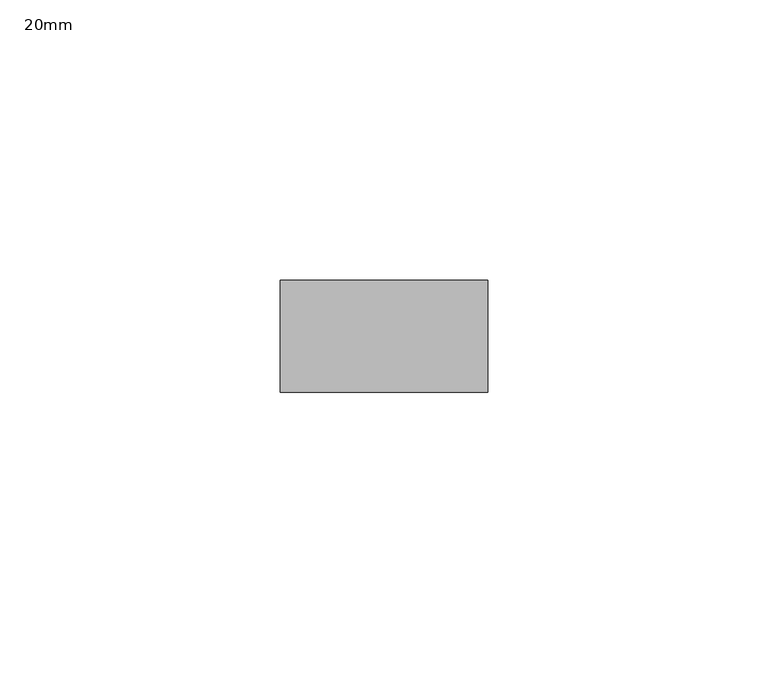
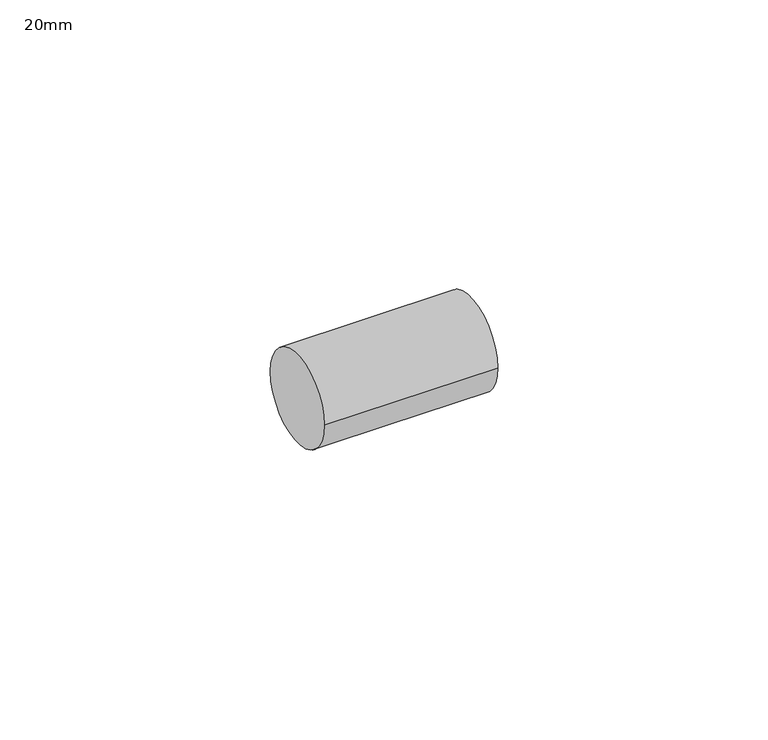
"""IFC4 building model written with IfcOpenShell, lengths in millimetres: pipe fitting geometry, PipeFitting_HTA_CPVC_PlainNipples : 20mm."""

import ifcopenshell
import ifcopenshell.guid

model = None  # the IFC model being written
_history = None  # IfcOwnerHistory: only IFC2X3 demands one
_inside = {}  # id of a spatial element -> (the spatial element, [elements in it])
_under = {}  # id of a project, library or spatial element -> (it, [spatial elements below it])
_declared = {}  # id of a project -> (the project, [libraries it declares])
_typed = {}  # id of a type object -> (the type object, [elements of that type])
_made_of = {}  # id of a material, layer set ... -> (it, [elements and type objects made of it])


def new_model(schema):
    """Start an empty IFC model of exactly this schema.

    Asked for "IFC4X3", IfcOpenShell would pick the latest addendum, in which some entities
    have other attributes; the version numbers below select the first issue.
    IFC2X3 requires an IfcOwnerHistory on every rooted entity: one is made here for all.
    """
    global model, _history
    if schema == "IFC4X3":
        model = ifcopenshell.file(schema_version=(4, 3, 0, 0))
    else:
        model = ifcopenshell.file(schema=schema)
    _inside.clear()
    _under.clear()
    _declared.clear()
    _typed.clear()
    _made_of.clear()
    _history = None
    if model.schema == "IFC2X3":
        org = make("IfcOrganization", Name="unknown")
        user = make(
            "IfcPersonAndOrganization",
            ThePerson=make("IfcPerson", FamilyName="unknown"),
            TheOrganization=org,
        )
        app = make(
            "IfcApplication",
            ApplicationDeveloper=org,
            Version="unknown",
            ApplicationFullName="unknown",
            ApplicationIdentifier="unknown",
        )
        _history = make(
            "IfcOwnerHistory",
            OwningUser=user,
            OwningApplication=app,
            ChangeAction="ADDED",
            CreationDate=0,
        )
    return model


def make(cls, **values):
    """One entity of the class cls with the attributes given. An attribute that is None is left unset."""
    return model.create_entity(
        cls, **{name: value for name, value in values.items() if value is not None}
    )


def rooted(cls, **values):
    """An entity with a GlobalId (a new one), such as an element, a storey or a relation."""
    return make(cls, GlobalId=ifcopenshell.guid.new(), OwnerHistory=_history, **values)


def si_unit(unit_type, name, prefix=None):
    """IfcSIUnit, for example si_unit("LENGTHUNIT", "METRE", prefix="MILLI")."""
    return make("IfcSIUnit", UnitType=unit_type, Prefix=prefix, Name=name)


def assignment(units):
    """IfcUnitAssignment: the units of a project."""
    return None if units is None else make("IfcUnitAssignment", Units=units)


def point(xyz):
    """IfcCartesianPoint."""
    return None if xyz is None else make("IfcCartesianPoint", Coordinates=xyz)


def direction(xyz):
    """IfcDirection."""
    return None if xyz is None else make("IfcDirection", DirectionRatios=xyz)


def frame(location, z_axis=None, x_axis=None):
    """IfcAxis2Placement3D, a coordinate frame: its origin and axes. An axis left out is left unset."""
    return make(
        "IfcAxis2Placement3D",
        Location=point(location),
        Axis=direction(z_axis),
        RefDirection=direction(x_axis),
    )


def frame_2d(location, x_axis=None):
    """IfcAxis2Placement2D, a coordinate frame in the plane: its origin and x axis."""
    return make(
        "IfcAxis2Placement2D", Location=point(location), RefDirection=direction(x_axis)
    )


def origin():
    """The frame at (0, 0, 0) with its axes left unset."""
    return frame((0.0, 0.0, 0.0))


def origin_2d():
    """The frame at (0, 0) in the plane with its x axis left unset."""
    return frame_2d((0.0, 0.0))


def place(relative_to, where):
    """IfcLocalPlacement: puts the frame where relative to a parent placement (None: the world)."""
    return make(
        "IfcLocalPlacement", PlacementRelTo=relative_to, RelativePlacement=where
    )


def context(
    kind, dimensions, precision=None, world=None, true_north=None, identifier=None
):
    """IfcGeometricRepresentationContext, for example the 3D "Model" context."""
    return make(
        "IfcGeometricRepresentationContext",
        ContextIdentifier=identifier,
        ContextType=kind,
        CoordinateSpaceDimension=dimensions,
        Precision=precision,
        WorldCoordinateSystem=world,
        TrueNorth=true_north,
    )


def project(units=None, contexts=None):
    """IfcProject with its units and contexts."""
    return rooted(
        "IfcProject",
        Name="project",
        RepresentationContexts=contexts,
        UnitsInContext=assignment(units),
    )


def spatial(cls, under=None, at=None, **own):
    """A site, building, storey or space (cls), placed at a placement, below another one or the project."""
    s = rooted(cls, ObjectPlacement=at, **own)
    if under is not None:
        _under.setdefault(under.id(), (under, []))[1].append(s)
    return s


def circle_curve(where, radius):
    """IfcCircle in the frame where."""
    return make("IfcCircle", Position=where, Radius=radius)


def trimmed(basis, trim1, trim2, sense, master):
    """IfcTrimmedCurve: the piece of a basis curve between two trims."""
    return make(
        "IfcTrimmedCurve",
        BasisCurve=basis,
        Trim1=trim1,
        Trim2=trim2,
        SenseAgreement=sense,
        MasterRepresentation=master,
    )


def segment(curve, same_sense, transition):
    """IfcCompositeCurveSegment."""
    return make(
        "IfcCompositeCurveSegment",
        Transition=transition,
        SameSense=same_sense,
        ParentCurve=curve,
    )


def composite_curve(segments, self_intersect=None):
    """IfcCompositeCurve: segments joined end to end."""
    return make("IfcCompositeCurve", Segments=segments, SelfIntersect=self_intersect)


def outline(outer, holes=None, kind="AREA"):
    """IfcArbitraryClosedProfileDef: a profile drawn as a closed curve; with holes, ...WithVoids."""
    if holes is None:
        return make("IfcArbitraryClosedProfileDef", ProfileType=kind, OuterCurve=outer)
    return make(
        "IfcArbitraryProfileDefWithVoids",
        ProfileType=kind,
        OuterCurve=outer,
        InnerCurves=holes,
    )


def extrude(swept, where, along, depth):
    """IfcExtrudedAreaSolid: the profile swept, set in the frame where, extruded along a direction by depth."""
    return make(
        "IfcExtrudedAreaSolid",
        SweptArea=swept,
        Position=where,
        ExtrudedDirection=direction(along),
        Depth=depth,
    )


def shape(context_of_items, identifier, shape_type, items):
    """IfcShapeRepresentation: the items that make up one representation, for example the "Body"."""
    return make(
        "IfcShapeRepresentation",
        ContextOfItems=context_of_items,
        RepresentationIdentifier=identifier,
        RepresentationType=shape_type,
        Items=items,
    )


def source(mapping_origin, context_of_items, identifier, shape_type, items):
    """IfcRepresentationMap: a shape defined once, which mapped items show again and again."""
    return make(
        "IfcRepresentationMap",
        MappingOrigin=mapping_origin,
        MappedRepresentation=shape(context_of_items, identifier, shape_type, items),
    )


def transform(
    local_origin,
    x_axis=None,
    y_axis=None,
    z_axis=None,
    scale=None,
    scale2=None,
    scale3=None,
    uniform=True,
):
    """IfcCartesianTransformationOperator3D, or its non-uniform kind. x_axis, y_axis, z_axis: its Axis1, 2, 3."""
    if uniform:
        return make(
            "IfcCartesianTransformationOperator3D",
            Axis1=direction(x_axis),
            Axis2=direction(y_axis),
            LocalOrigin=point(local_origin),
            Scale=scale,
            Axis3=direction(z_axis),
        )
    return make(
        "IfcCartesianTransformationOperator3DnonUniform",
        Axis1=direction(x_axis),
        Axis2=direction(y_axis),
        LocalOrigin=point(local_origin),
        Scale=scale,
        Axis3=direction(z_axis),
        Scale2=scale2,
        Scale3=scale3,
    )


def mapped(mapping_source, mapping_target):
    """IfcMappedItem: shows the shape of a source again, moved by a transform."""
    return make(
        "IfcMappedItem", MappingSource=mapping_source, MappingTarget=mapping_target
    )


def made_of(thing, what):
    """Note that an element or type object is made of a material, layer set ...; save() writes the relation."""
    if what is not None:
        _made_of.setdefault(what.id(), (what, []))[1].append(thing)
    return thing


def element(
    cls,
    number,
    at=None,
    inside=None,
    cuts=None,
    type_object=None,
    material=None,
    context=None,
    identifier="Body",
    shape_type=None,
    held_by="IfcProductDefinitionShape",
    body=None,
    shapes=None,
    **own,
):
    """One element of the class cls, such as IfcWall. Its Tag is "e" and its number.

    at: its placement. inside: the storey or other place that contains it. cuts: it is an
    opening in that element (IfcRelVoidsElement). A single representation is given by context,
    identifier, shape_type and body (its items); several are given by shapes. held_by: the class
    of the entity that holds the representations. save() writes the other relations.
    """
    e = rooted(cls, Tag="e%d" % number, ObjectPlacement=at, **own)
    if body is not None:
        shapes = [shape(context, identifier, shape_type, body)]
    if shapes is not None:
        e.Representation = make(held_by, Representations=shapes)
    if inside is not None:
        _inside.setdefault(inside.id(), (inside, []))[1].append(e)
    if cuts is not None:
        rooted(
            "IfcRelVoidsElement", RelatingBuildingElement=cuts, RelatedOpeningElement=e
        )
    if type_object is not None:
        _typed.setdefault(type_object.id(), (type_object, []))[1].append(e)
    return made_of(e, material)


def aggregate(whole, parts):
    """IfcRelAggregates: a whole, such as a stair, and the parts it consists of."""
    return rooted("IfcRelAggregates", RelatingObject=whole, RelatedObjects=parts)


def save(model, path):
    """Write the relations noted so far, then the file.

    IfcRelAggregates (storeys below a building ...), IfcRelContainedInSpatialStructure (elements
    in a storey), IfcRelDefinesByType, IfcRelAssociatesMaterial and IfcRelDeclares: one each for
    every whole, place, type object, material and project.
    """
    for whole, parts in _under.values():
        aggregate(whole, parts)
    for where, things in _inside.values():
        rooted(
            "IfcRelContainedInSpatialStructure",
            RelatedElements=things,
            RelatingStructure=where,
        )
    for kind, things in _typed.values():
        rooted("IfcRelDefinesByType", RelatedObjects=things, RelatingType=kind)
    for what, things in _made_of.values():
        rooted("IfcRelAssociatesMaterial", RelatedObjects=things, RelatingMaterial=what)
    for by, libraries in _declared.values():
        rooted("IfcRelDeclares", RelatingContext=by, RelatedDefinitions=libraries)
    model.write(path)


def pipe_fitting_20mm_6f5dd0fc(model_context):
    return source(origin(), model_context, "Body", "SweptSolid", [
        extrude(outline(composite_curve([segment(trimmed(circle_curve(origin_2d(), 10.0), [point((-10.0, 0.0))], [point((10.0, 0.0))], False, "CARTESIAN"), True, "CONTINUOUS"), segment(trimmed(circle_curve(origin_2d(), 10.0), [point((10.0, 0.0))], [point((-10.0, 0.0))], False, "CARTESIAN"), True, "CONTINUOUS")], self_intersect=False)), frame((-18.5, 0.0, 0.0), z_axis=(1.0, 0.0, 0.0), x_axis=(0.0, 1.0, 0.0)), (0.0, 0.0, 1.0), 37.0),
    ])


if __name__ == "__main__":
    model = new_model("IFC4")
    model_context = context("Model", 3, world=origin())
    ifc_project = project(units=[si_unit("LENGTHUNIT", "METRE", prefix="MILLI")], contexts=[model_context])
    site = spatial("IfcSite", under=ifc_project)
    building = spatial("IfcBuilding", under=site)
    placement = place(None, origin())
    pipe_fitting_20mm_shape = pipe_fitting_20mm_6f5dd0fc(model_context)
    element("IfcPipeFitting", 1, ObjectType="PipeFitting_HTA_CPVC_PlainNipples : 20mm", at=placement, inside=building, context=model_context, shape_type="MappedRepresentation", body=[
        mapped(pipe_fitting_20mm_shape, transform((0.0, 0.0, 0.0), x_axis=(1.0, 0.0, 0.0), y_axis=(0.0, 1.0, 0.0), z_axis=(0.0, 0.0, 1.0))),
    ])
    save(model, "model.ifc")
